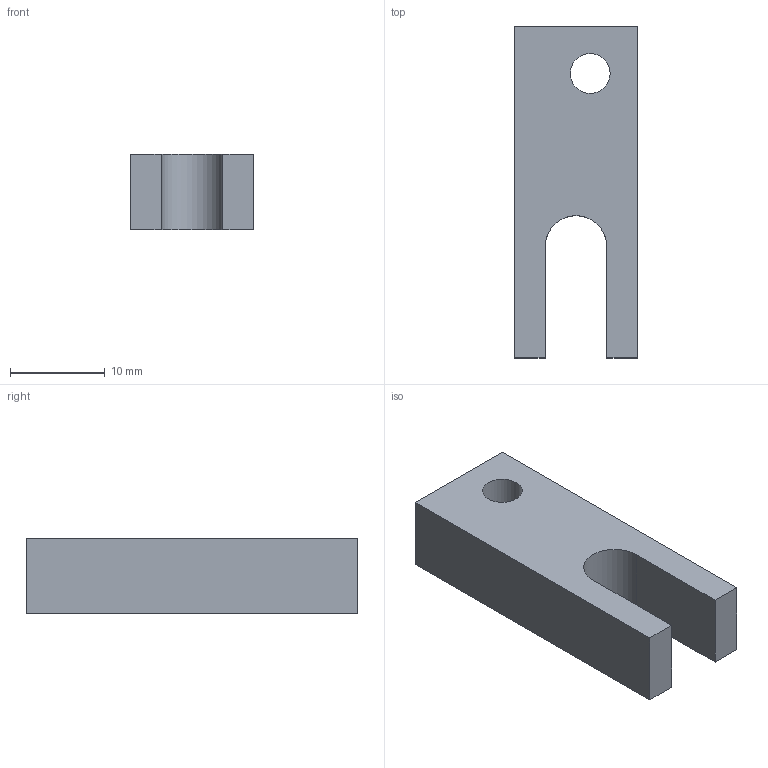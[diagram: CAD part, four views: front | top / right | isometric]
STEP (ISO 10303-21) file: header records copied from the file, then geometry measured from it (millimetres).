
FILE_DESCRIPTION(/* description */ (''),/* implementation_level */ '2;1');
FILE_NAME(/* name */ '5OM122B2.01.stp',/* time_stamp */ '2026-06-03T07:11:54+03:00',/* author */ ('dsgn33'),/* organization */ (''),/* preprocessor_version */ 'ST-DEVELOPER v20',/* originating_system */ 'Autodesk Inventor 2025',/* authorisation */ '');
FILE_SCHEMA (('AUTOMOTIVE_DESIGN { 1 0 10303 214 3 1 1 }'));
Length unit declared in the file: millimetre
Products named in the file (1): 5OM122B2.01
Bounding box: 13 x 35 x 8 mm (x, y, z)
Volume: 2632.5 mm3; surface area: 1837.7 mm2
Topology: 1 solids, 1 shells, 13 faces, 30 edges, 20 vertices
Faces by surface type: plane 10, cylinder 3
Full cylindrical faces by diameter (mm): 4.2 x1, 8 x1
Entity records: 417 total; most frequent: DIRECTION 64, CARTESIAN_POINT 64, ORIENTED_EDGE 60, EDGE_CURVE 30, LINE 24, VECTOR 24, VERTEX_POINT 20, AXIS2_PLACEMENT_3D 20
